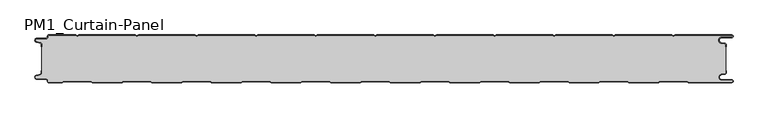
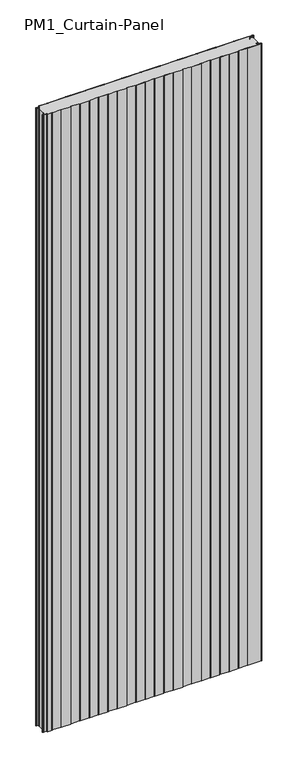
"""IFC4 building model written with IfcOpenShell, lengths in millimetres: plate geometry, PM1_Curtain-Panel : ACH_PM1_Stone-wool-Panel_80M."""

from ifc_helpers import new_model, si_unit, point, frame_2d, origin, origin_with_axes, place, context, project, spatial, polyline, circle_curve, trimmed, segment, composite_curve, outline, extrude, source, transform, mapped, element, save


def pm1_curtain_panel_a6e44ccd(model_context):
    return source(origin(), model_context, "Body", "SweptSolid", [
        extrude(outline(composite_curve([segment(trimmed(circle_curve(frame_2d((-577.0, -15.878557)), 2.0), [point((-575.0, -15.878557))], [point((-576.5500978, -13.9298169))], True, "CARTESIAN"), True, "CONTINUOUS"), segment(polyline([(-576.5500978, -13.9298169), (-582.7098239, -12.507732)]), True, "CONTINUOUS"), segment(trimmed(circle_curve(frame_2d((-581.9, -9.0)), 3.6), [point((-582.7098239, -12.507732))], [point((-581.9, -5.4))], False, "CARTESIAN"), True, "CONTINUOUS"), segment(polyline([(-581.9, -5.4), (-566.4, -5.4)]), True, "CONTINUOUS"), segment(trimmed(circle_curve(frame_2d((-566.4, -3.4)), 2.0), [point((-566.4, -5.4))], [point((-564.4, -3.4))], True, "CARTESIAN"), True, "CONTINUOUS"), segment(polyline([(-564.4, -3.4), (-564.4, -2.0)]), True, "CONTINUOUS"), segment(trimmed(circle_curve(frame_2d((-562.4, -2.0)), 2.0), [point((-564.4, -2.0))], [point((-562.4, 0.0))], False, "CARTESIAN"), True, "CONTINUOUS"), segment(polyline([(-562.4, 0.0), (-517.0999995, 0.0), (-514.4, -1.5588455), (-511.7000005, 0.0), (-417.0999995, 0.0), (-414.4, -1.5588455), (-411.7000005, 0.0), (-317.0999995, 0.0), (-314.4, -1.5588455), (-311.7000005, 0.0), (-217.0999995, 0.0), (-214.4, -1.5588455), (-211.7000005, 0.0), (-117.0999995, 0.0), (-114.4, -1.5588455), (-111.7000005, 0.0), (-17.0999995, 0.0), (-14.4, -1.5588455), (-11.7000005, 0.0), (82.9000005, 0.0), (85.6, -1.5588455), (88.2999995, 0.0), (182.9000005, 0.0), (185.6, -1.5588455), (188.2999995, 0.0), (282.9000005, 0.0), (285.6, -1.5588455), (288.2999995, 0.0), (382.9000005, 0.0), (385.6, -1.5588455), (388.2999995, 0.0), (482.9000005, 0.0), (485.6, -1.5588455), (488.2999995, 0.0), (583.1, 0.0)]), True, "CONTINUOUS"), segment(trimmed(circle_curve(frame_2d((583.1, -2.5)), 2.5), [point((583.1, 0.0))], [point((583.1, -5.0))], False, "CARTESIAN"), True, "CONTINUOUS"), segment(polyline([(583.1, -5.0), (566.1, -5.0)]), True, "CONTINUOUS"), segment(trimmed(circle_curve(frame_2d((566.1, -9.0)), 4.0), [point((566.1, -5.0))], [point((565.405407, -12.939231))], True, "CARTESIAN"), True, "CONTINUOUS"), segment(polyline([(565.405407, -12.939231), (571.8514855, -14.0758491)]), True, "CONTINUOUS"), segment(trimmed(circle_curve(frame_2d((571.4, -16.6363492)), 2.6), [point((571.8514855, -14.0758491))], [point((574.0, -16.6363492))], False, "CARTESIAN"), True, "CONTINUOUS"), segment(polyline([(574.0, -16.6363492), (574.0, -20.0), (573.2, -20.0), (573.2, -16.6363492)]), True, "CONTINUOUS"), segment(trimmed(circle_curve(frame_2d((571.4, -16.6363492)), 1.8), [point((573.2, -16.6363492))], [point((571.7125669, -14.8636953))], True, "CARTESIAN"), True, "CONTINUOUS"), segment(polyline([(571.7125669, -14.8636953), (565.2664884, -13.7270772)]), True, "CONTINUOUS"), segment(trimmed(circle_curve(frame_2d((566.1, -9.0)), 4.8), [point((565.2664884, -13.7270772))], [point((566.1, -4.2))], False, "CARTESIAN"), True, "CONTINUOUS"), segment(polyline([(566.1, -4.2), (583.1, -4.2)]), True, "CONTINUOUS"), segment(trimmed(circle_curve(frame_2d((583.1, -2.5)), 1.7), [point((583.1, -4.2))], [point((583.1, -0.8))], True, "CARTESIAN"), True, "CONTINUOUS"), segment(polyline([(583.1, -0.8), (488.5143588, -0.8), (485.6, -2.482606), (482.6856412, -0.8), (388.5143588, -0.8), (385.6, -2.482606), (382.6856412, -0.8), (288.5143588, -0.8), (285.6, -2.482606), (282.6856412, -0.8), (188.5143588, -0.8), (185.6, -2.482606), (182.6856412, -0.8), (88.5143588, -0.8), (85.6, -2.482606), (82.6856412, -0.8), (-11.4856412, -0.8), (-14.4, -2.482606), (-17.3143588, -0.8), (-111.4856412, -0.8), (-114.4, -2.482606), (-117.3143588, -0.8), (-211.4856412, -0.8), (-214.4, -2.482606), (-217.3143588, -0.8), (-311.4856412, -0.8), (-314.4, -2.482606), (-317.3143588, -0.8), (-411.4856412, -0.8), (-414.4, -2.482606), (-417.3143588, -0.8), (-511.4856412, -0.8), (-514.4, -2.482606), (-517.3143588, -0.8), (-562.4, -0.8)]), True, "CONTINUOUS"), segment(trimmed(circle_curve(frame_2d((-562.4, -2.0)), 1.2), [point((-562.4, -0.8))], [point((-563.6, -2.0))], True, "CARTESIAN"), True, "CONTINUOUS"), segment(polyline([(-563.6, -2.0), (-563.6, -3.4)]), True, "CONTINUOUS"), segment(trimmed(circle_curve(frame_2d((-566.4, -3.4)), 2.8), [point((-563.6, -3.4))], [point((-566.4, -6.2))], False, "CARTESIAN"), True, "CONTINUOUS"), segment(polyline([(-566.4, -6.2), (-581.9, -6.2)]), True, "CONTINUOUS"), segment(trimmed(circle_curve(frame_2d((-581.9, -9.0)), 2.8), [point((-581.9, -6.2))], [point((-582.529863, -11.7282362))], True, "CARTESIAN"), True, "CONTINUOUS"), segment(polyline([(-582.529863, -11.7282362), (-576.370137, -13.150321)]), True, "CONTINUOUS"), segment(trimmed(circle_curve(frame_2d((-577.0, -15.878557)), 2.8), [point((-576.370137, -13.150321))], [point((-574.2, -15.878557))], False, "CARTESIAN"), True, "CONTINUOUS"), segment(polyline([(-574.2, -15.878557), (-574.2, -20.0), (-575.0, -20.0), (-575.0, -15.878557)]), True, "CONTINUOUS")], self_intersect=False)), origin_with_axes(), (0.0, 0.0, 1.0), 3500.0),
        extrude(outline(composite_curve([segment(polyline([(-574.2, -64.121443), (-574.2, -15.8785573)]), True, "CONTINUOUS"), segment(trimmed(circle_curve(frame_2d((-577.0, -15.8785573)), 2.8), [point((-574.2, -15.8785573))], [point((-576.370137, -13.1503212))], True, "CARTESIAN"), True, "CONTINUOUS"), segment(polyline([(-576.370137, -13.1503212), (-582.5298631, -11.7282362)]), True, "CONTINUOUS"), segment(trimmed(circle_curve(frame_2d((-581.9, -9.0)), 2.8), [point((-582.5298631, -11.7282362))], [point((-581.9, -6.2))], False, "CARTESIAN"), True, "CONTINUOUS"), segment(polyline([(-581.9, -6.2), (-566.4000001, -6.2)]), True, "CONTINUOUS"), segment(trimmed(circle_curve(frame_2d((-566.4000001, -3.4)), 2.8), [point((-566.4000001, -6.2))], [point((-563.6000001, -3.4))], True, "CARTESIAN"), True, "CONTINUOUS"), segment(polyline([(-563.6000001, -3.4), (-563.6000001, -2.0)]), True, "CONTINUOUS"), segment(trimmed(circle_curve(frame_2d((-562.4000001, -2.0)), 1.2), [point((-563.6000001, -2.0))], [point((-562.4000001, -0.8))], False, "CARTESIAN"), True, "CONTINUOUS"), segment(polyline([(-562.4000001, -0.8), (-517.3143589, -0.8), (-514.4000001, -2.482606), (-511.4856412, -0.8), (-417.3143589, -0.8), (-414.4000001, -2.482606), (-411.4856412, -0.8), (-317.3143589, -0.8), (-314.4000001, -2.482606), (-311.4856412, -0.8), (-217.3143589, -0.8), (-214.4000001, -2.482606), (-211.4856412, -0.8), (-117.3143589, -0.8), (-114.4000001, -2.482606), (-111.4856412, -0.8), (-17.3143589, -0.8), (-14.4000001, -2.482606), (-11.4856412, -0.8), (82.6856411, -0.8), (85.5999999, -2.482606), (88.5143588, -0.8), (182.6856411, -0.8), (185.5999999, -2.482606), (188.5143588, -0.8), (282.6856411, -0.8), (285.5999999, -2.482606), (288.5143588, -0.8), (382.6856411, -0.8), (385.5999999, -2.482606), (388.5143588, -0.8), (482.6856411, -0.8), (485.6, -2.482606), (488.5143588, -0.8), (583.1, -0.8)]), True, "CONTINUOUS"), segment(trimmed(circle_curve(frame_2d((583.1, -2.5)), 1.7), [point((583.1, -0.8))], [point((583.1, -4.2))], False, "CARTESIAN"), True, "CONTINUOUS"), segment(polyline([(583.1, -4.2), (566.1, -4.2)]), True, "CONTINUOUS"), segment(trimmed(circle_curve(frame_2d((566.1, -9.0)), 4.8), [point((566.1, -4.2))], [point((565.2664883, -13.7270771))], True, "CARTESIAN"), True, "CONTINUOUS"), segment(polyline([(565.2664883, -13.7270771), (571.7125668, -14.8636953)]), True, "CONTINUOUS"), segment(trimmed(circle_curve(frame_2d((571.4, -16.6363492)), 1.8), [point((571.7125668, -14.8636953))], [point((573.2, -16.6363492))], False, "CARTESIAN"), True, "CONTINUOUS"), segment(polyline([(573.2, -16.6363492), (573.2, -63.363652)]), True, "CONTINUOUS"), segment(trimmed(circle_curve(frame_2d((571.4, -63.363652)), 1.8), [point((573.2, -63.363652))], [point((571.7125666, -65.1363059))], False, "CARTESIAN"), True, "CONTINUOUS"), segment(polyline([(571.7125666, -65.1363059), (565.266489, -66.272923)]), True, "CONTINUOUS"), segment(trimmed(circle_curve(frame_2d((566.1, -71.0000002)), 4.7999999), [point((565.266489, -66.272923))], [point((566.1, -75.8000001))], True, "CARTESIAN"), True, "CONTINUOUS"), segment(polyline([(566.1, -75.8000001), (583.1, -75.8000001)]), True, "CONTINUOUS"), segment(trimmed(circle_curve(frame_2d((583.1, -77.5)), 1.7), [point((583.1, -75.8000001))], [point((583.1, -79.2))], False, "CARTESIAN"), True, "CONTINUOUS"), segment(polyline([(583.1, -79.2), (510.8105122, -79.2), (508.2124346, -77.7), (462.9837184, -77.7), (460.3856408, -79.2), (410.8105122, -79.2), (408.2124346, -77.7), (362.9837184, -77.7), (360.3856408, -79.2), (310.8105122, -79.2), (308.2124346, -77.7), (262.9837184, -77.7), (260.3856408, -79.2), (210.8105122, -79.2), (208.2124346, -77.7), (162.9837184, -77.7), (160.3856408, -79.2), (110.8105122, -79.2), (108.2124346, -77.7), (62.9837184, -77.7), (60.3856408, -79.2), (10.8105122, -79.2), (8.2124346, -77.7), (-37.0162816, -77.7), (-39.6143592, -79.2), (-89.1894878, -79.2), (-91.7875654, -77.7), (-137.0162816, -77.7), (-139.6143592, -79.2), (-189.1894878, -79.2), (-191.7875654, -77.7), (-237.0162816, -77.7), (-239.6143592, -79.2), (-289.1894878, -79.2), (-291.7875654, -77.7), (-337.0162816, -77.7), (-339.6143592, -79.2), (-389.1894878, -79.2), (-391.7875654, -77.7), (-437.0162816, -77.7), (-439.6143592, -79.2), (-489.1894878, -79.2), (-491.7875654, -77.7), (-537.0162816, -77.7), (-539.6143592, -79.2), (-562.4, -79.2)]), True, "CONTINUOUS"), segment(trimmed(circle_curve(frame_2d((-562.4, -78.0)), 1.2), [point((-562.4, -79.2))], [point((-563.6, -78.0))], False, "CARTESIAN"), True, "CONTINUOUS"), segment(polyline([(-563.6, -78.0), (-563.6, -76.5999998)]), True, "CONTINUOUS"), segment(trimmed(circle_curve(frame_2d((-566.4, -76.5999998)), 2.8), [point((-563.6, -76.5999998))], [point((-566.4, -73.7999998))], True, "CARTESIAN"), True, "CONTINUOUS"), segment(polyline([(-566.4, -73.7999998), (-581.9, -73.7999998)]), True, "CONTINUOUS"), segment(trimmed(circle_curve(frame_2d((-581.9, -71.0)), 2.7999998), [point((-581.9, -73.7999998))], [point((-582.529863, -68.271764))], False, "CARTESIAN"), True, "CONTINUOUS"), segment(polyline([(-582.529863, -68.271764), (-576.370137, -66.8496792)]), True, "CONTINUOUS"), segment(trimmed(circle_curve(frame_2d((-577.0, -64.121443)), 2.8), [point((-576.370137, -66.8496792))], [point((-574.2, -64.121443))], True, "CARTESIAN"), True, "CONTINUOUS")], self_intersect=False)), origin_with_axes(), (0.0, 0.0, 1.0), 3500.0),
        extrude(outline(composite_curve([segment(trimmed(circle_curve(frame_2d((-562.4, -78.0)), 2.0), [point((-562.4, -80.0))], [point((-564.4, -78.0))], False, "CARTESIAN"), True, "CONTINUOUS"), segment(polyline([(-564.4, -78.0), (-564.4, -76.6)]), True, "CONTINUOUS"), segment(trimmed(circle_curve(frame_2d((-566.4, -76.6)), 2.0), [point((-564.4, -76.6))], [point((-566.4, -74.6))], True, "CARTESIAN"), True, "CONTINUOUS"), segment(polyline([(-566.4, -74.6), (-581.9, -74.6)]), True, "CONTINUOUS"), segment(trimmed(circle_curve(frame_2d((-581.9, -71.0)), 3.6), [point((-581.9, -74.6))], [point((-582.7098239, -67.4922678))], False, "CARTESIAN"), True, "CONTINUOUS"), segment(polyline([(-582.7098239, -67.4922678), (-576.5500979, -66.070183)]), True, "CONTINUOUS"), segment(trimmed(circle_curve(frame_2d((-577.0, -64.121443)), 2.0), [point((-576.5500979, -66.070183))], [point((-575.0, -64.121443))], True, "CARTESIAN"), True, "CONTINUOUS"), segment(polyline([(-575.0, -64.121443), (-575.0, -60.0), (-574.2, -60.0), (-574.2, -64.121443)]), True, "CONTINUOUS"), segment(trimmed(circle_curve(frame_2d((-577.0, -64.121443)), 2.8), [point((-574.2, -64.121443))], [point((-576.370137, -66.8496792))], False, "CARTESIAN"), True, "CONTINUOUS"), segment(polyline([(-576.370137, -66.8496792), (-582.529863, -68.271764)]), True, "CONTINUOUS"), segment(trimmed(circle_curve(frame_2d((-581.9, -71.0)), 2.8), [point((-582.529863, -68.271764))], [point((-581.9, -73.8))], True, "CARTESIAN"), True, "CONTINUOUS"), segment(polyline([(-581.9, -73.8), (-566.4, -73.8)]), True, "CONTINUOUS"), segment(trimmed(circle_curve(frame_2d((-566.4, -76.6)), 2.8), [point((-566.4, -73.8))], [point((-563.6, -76.6))], False, "CARTESIAN"), True, "CONTINUOUS"), segment(polyline([(-563.6, -76.6), (-563.6, -78.0)]), True, "CONTINUOUS"), segment(trimmed(circle_curve(frame_2d((-562.4, -78.0)), 1.2), [point((-563.6, -78.0))], [point((-562.4, -79.2))], True, "CARTESIAN"), True, "CONTINUOUS"), segment(polyline([(-562.4, -79.2), (-539.6143592, -79.2), (-537.0162816, -77.7), (-491.7875654, -77.7), (-489.1894878, -79.2), (-439.6143592, -79.2), (-437.0162816, -77.7), (-391.7875654, -77.7), (-389.1894878, -79.2), (-339.6143592, -79.2), (-337.0162816, -77.7), (-291.7875654, -77.7), (-289.1894878, -79.2), (-239.6143592, -79.2), (-237.0162816, -77.7), (-191.7875654, -77.7), (-189.1894878, -79.2), (-139.6143592, -79.2), (-137.0162816, -77.7), (-91.7875654, -77.7), (-89.1894878, -79.2), (-39.6143592, -79.2), (-37.0162816, -77.7), (8.2124346, -77.7), (10.8105122, -79.2), (60.3856408, -79.2), (62.9837184, -77.7), (108.2124346, -77.7), (110.8105122, -79.2), (160.3856408, -79.2), (162.9837184, -77.7), (208.2124346, -77.7), (210.8105122, -79.2), (260.3856408, -79.2), (262.9837184, -77.7), (308.2124346, -77.7), (310.8105122, -79.2), (360.3856408, -79.2), (362.9837184, -77.7), (408.2124346, -77.7), (410.8105122, -79.2), (460.3856408, -79.2), (462.9837184, -77.7), (508.2124346, -77.7), (510.8105122, -79.2), (583.1, -79.2)]), True, "CONTINUOUS"), segment(trimmed(circle_curve(frame_2d((583.1, -77.5)), 1.7), [point((583.1, -79.2))], [point((583.1, -75.8))], True, "CARTESIAN"), True, "CONTINUOUS"), segment(polyline([(583.1, -75.8), (566.1, -75.8)]), True, "CONTINUOUS"), segment(trimmed(circle_curve(frame_2d((566.1, -71.0)), 4.8), [point((566.1, -75.8))], [point((565.266489, -66.2729227))], False, "CARTESIAN"), True, "CONTINUOUS"), segment(polyline([(565.266489, -66.2729227), (571.7125666, -65.1363058)]), True, "CONTINUOUS"), segment(trimmed(circle_curve(frame_2d((571.4, -63.363652)), 1.8), [point((571.7125666, -65.1363058))], [point((573.2, -63.363652))], True, "CARTESIAN"), True, "CONTINUOUS"), segment(polyline([(573.2, -63.363652), (573.2, -60.0), (574.0, -60.0), (574.0, -63.363652)]), True, "CONTINUOUS"), segment(trimmed(circle_curve(frame_2d((571.4, -63.363652)), 2.6), [point((574.0, -63.363652))], [point((571.8514851, -65.9241522))], False, "CARTESIAN"), True, "CONTINUOUS"), segment(polyline([(571.8514851, -65.9241522), (565.4054075, -67.0607691)]), True, "CONTINUOUS"), segment(trimmed(circle_curve(frame_2d((566.1, -71.0)), 4.0), [point((565.4054075, -67.0607691))], [point((566.1, -75.0))], True, "CARTESIAN"), True, "CONTINUOUS"), segment(polyline([(566.1, -75.0), (583.1, -75.0)]), True, "CONTINUOUS"), segment(trimmed(circle_curve(frame_2d((583.1, -77.5)), 2.5), [point((583.1, -75.0))], [point((583.1, -80.0))], False, "CARTESIAN"), True, "CONTINUOUS"), segment(polyline([(583.1, -80.0), (510.5961529, -80.0), (507.9980753, -78.5), (463.1980777, -78.5), (460.6000001, -80.0), (410.5961529, -80.0), (407.9980753, -78.5), (363.1980777, -78.5), (360.6000001, -80.0), (310.5961529, -80.0), (307.9980753, -78.5), (263.1980777, -78.5), (260.6000001, -80.0), (210.5961529, -80.0), (207.9980753, -78.5), (163.1980777, -78.5), (160.6000001, -80.0), (110.5961529, -80.0), (107.9980753, -78.5), (63.1980777, -78.5), (60.6000001, -80.0), (10.5961529, -80.0), (7.9980753, -78.5), (-36.8019223, -78.5), (-39.3999999, -80.0), (-89.4038471, -80.0), (-92.0019247, -78.5), (-136.8019223, -78.5), (-139.3999999, -80.0), (-189.4038471, -80.0), (-192.0019247, -78.5), (-236.8019223, -78.5), (-239.3999999, -80.0), (-289.4038471, -80.0), (-292.0019247, -78.5), (-336.8019223, -78.5), (-339.3999999, -80.0), (-389.4038471, -80.0), (-392.0019247, -78.5), (-436.8019223, -78.5), (-439.3999999, -80.0), (-489.4038471, -80.0), (-492.0019247, -78.5), (-536.8019223, -78.5), (-539.3999999, -80.0), (-562.4, -80.0)]), True, "CONTINUOUS")], self_intersect=False)), origin_with_axes(), (0.0, 0.0, 1.0), 3500.0),
    ])


if __name__ == "__main__":
    model = new_model("IFC4")
    model_context = context("Model", 3, world=origin())
    ifc_project = project(units=[si_unit("LENGTHUNIT", "METRE", prefix="MILLI")], contexts=[model_context])
    site = spatial("IfcSite", under=ifc_project)
    building = spatial("IfcBuilding", under=site)
    placement = place(None, origin())
    pm1_curtain_panel_shape = pm1_curtain_panel_a6e44ccd(model_context)
    element("IfcPlate", 1, ObjectType="PM1_Curtain-Panel : ACH_PM1_Stone-wool-Panel_80M", at=placement, inside=building, context=model_context, shape_type="MappedRepresentation", body=[
        mapped(pm1_curtain_panel_shape, transform((0.0, 0.0, 0.0), x_axis=(1.0, 0.0, 0.0), y_axis=(0.0, 1.0, 0.0), z_axis=(0.0, 0.0, 1.0))),
    ])
    save(model, "model.ifc")
